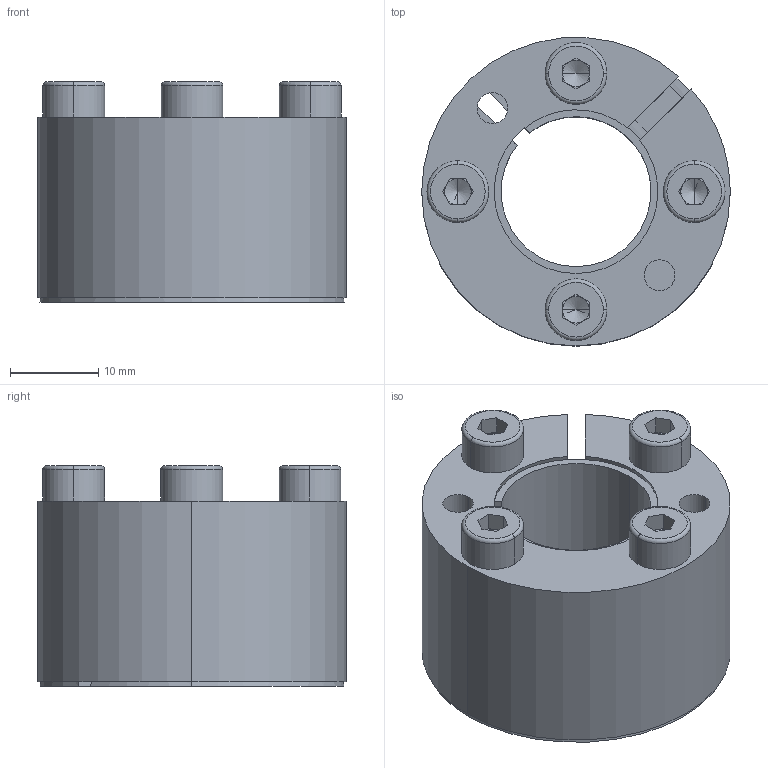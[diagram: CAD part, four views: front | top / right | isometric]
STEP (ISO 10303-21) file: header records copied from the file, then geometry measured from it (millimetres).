
FILE_DESCRIPTION (( 'STEP AP214' ), '1' );
FILE_NAME ('CONEX-K-17x35.step', '2013-04-06T13:20:38', ( 'Pc' ), ( '' ), 'SwSTEP 2.0', 'SolidWorks 2013', '' );
FILE_SCHEMA (( 'AUTOMOTIVE_DESIGN' ));
Length unit declared in the file: millimetre
Products named in the file (1): CONEX-K-17x35
Bounding box: 35 x 34.96 x 24.99 mm (x, y, z)
Volume: 12260.1 mm3; surface area: 11536.7 mm2
Topology: 6 solids, 6 shells, 162 faces, 378 edges, 228 vertices
Faces by surface type: plane 70, cylinder 48, cone 28, torus 16
Entity records: 6473 total; most frequent: DIRECTION 866, CARTESIAN_POINT 785, ORIENTED_EDGE 740, EDGE_CURVE 370, AXIS2_PLACEMENT_3D 341, VERTEX_POINT 228, EDGE_LOOP 190, LINE 184
